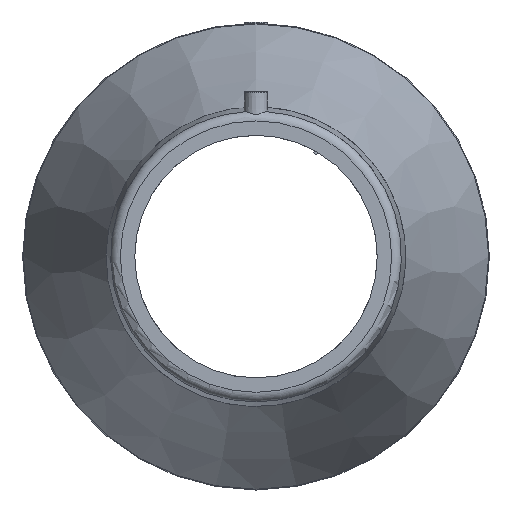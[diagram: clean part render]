
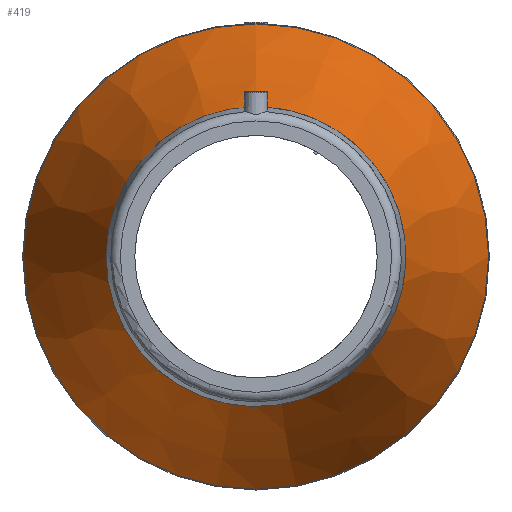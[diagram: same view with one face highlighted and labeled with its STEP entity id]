
A CAD part, left-side view. The second image highlights one B-rep face of the part: STEP entity #419.
In plain terms, the highlighted conical face has half-angle 22.571 degrees and reference radius 192.5 mm.
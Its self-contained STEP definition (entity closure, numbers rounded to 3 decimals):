
#79=CIRCLE('',#478,123.5);
#80=CIRCLE('',#479,191.887);
#117=ORIENTED_EDGE('',*,*,#205,.F.);
#118=ORIENTED_EDGE('',*,*,#206,.T.);
#205=EDGE_CURVE('',#249,#249,#79,.T.);
#206=EDGE_CURVE('',#250,#250,#80,.T.);
#249=VERTEX_POINT('',#759);
#250=VERTEX_POINT('',#761);
#290=EDGE_LOOP('',(#117));
#291=EDGE_LOOP('',(#118));
#355=FACE_BOUND('',#290,.T.);
#356=FACE_BOUND('',#291,.T.);
#410=CONICAL_SURFACE('',#477,192.5,0.394);
#419=ADVANCED_FACE('',(#355,#356),#410,.T.);
#477=AXIS2_PLACEMENT_3D('',#757,#560,#561);
#478=AXIS2_PLACEMENT_3D('',#758,#562,#563);
#479=AXIS2_PLACEMENT_3D('',#760,#564,#565);
#560=DIRECTION('',(1.,0.,0.));
#561=DIRECTION('',(0.,0.,-1.));
#562=DIRECTION('',(-1.,0.,0.));
#563=DIRECTION('',(0.,0.,1.));
#564=DIRECTION('',(-1.,0.,0.));
#565=DIRECTION('',(0.,0.,1.));
#757=CARTESIAN_POINT('',(83.,0.,0.));
#758=CARTESIAN_POINT('',(-83.,0.,0.));
#759=CARTESIAN_POINT('',(-83.,0.,123.5));
#760=CARTESIAN_POINT('',(81.526,0.,0.));
#761=CARTESIAN_POINT('',(81.526,0.,191.887));
